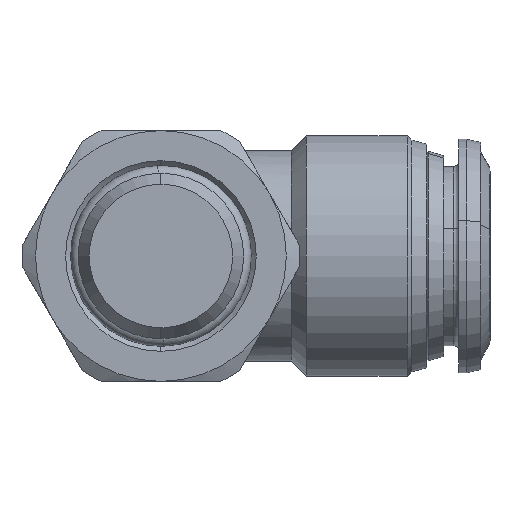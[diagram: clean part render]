
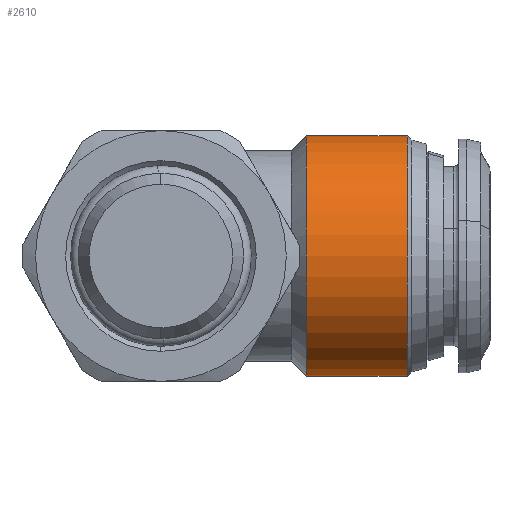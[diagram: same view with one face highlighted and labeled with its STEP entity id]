
A CAD part, front view. The second image highlights one B-rep face of the part: STEP entity #2610.
In plain terms, the highlighted cylindrical face has radius 12 mm (diameter 24 mm), a partial arc.
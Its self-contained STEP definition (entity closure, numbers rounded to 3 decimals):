
#188 = VECTOR ( 'NONE', #2778, 1000. ) ;
#210 = CIRCLE ( 'NONE', #5140, 12. ) ;
#454 = CARTESIAN_POINT ( 'NONE',  ( 14.5, 0., -12. ) ) ;
#722 = CARTESIAN_POINT ( 'NONE',  ( 14.5, 0., 12. ) ) ;
#871 = ORIENTED_EDGE ( 'NONE', *, *, #1252, .F. ) ;
#927 = DIRECTION ( 'NONE',  ( 1., 0., 0. ) ) ;
#982 = CARTESIAN_POINT ( 'NONE',  ( 14.5, 0., 0. ) ) ;
#1249 = CARTESIAN_POINT ( 'NONE',  ( 24.552, 0., 12. ) ) ;
#1252 = EDGE_CURVE ( 'NONE', #3704, #5888, #2170, .T. ) ;
#1449 = CARTESIAN_POINT ( 'NONE',  ( 0., 0., 0. ) ) ;
#1762 = VECTOR ( 'NONE', #5117, 1000. ) ;
#2002 = LINE ( 'NONE', #3882, #1762 ) ;
#2104 = DIRECTION ( 'NONE',  ( 0., 0., 1. ) ) ;
#2170 = CIRCLE ( 'NONE', #4124, 12. ) ;
#2217 = VERTEX_POINT ( 'NONE', #454 ) ;
#2610 = ADVANCED_FACE ( 'NONE', ( #7007 ), #5827, .T. ) ;
#2731 = DIRECTION ( 'NONE',  ( 0., 0., 1. ) ) ;
#2778 = DIRECTION ( 'NONE',  ( -1., 0., 0. ) ) ;
#2906 = EDGE_LOOP ( 'NONE', ( #7565, #871, #7364, #3530 ) ) ;
#2951 = EDGE_CURVE ( 'NONE', #3704, #4639, #2002, .T. ) ;
#3530 = ORIENTED_EDGE ( 'NONE', *, *, #7507, .F. ) ;
#3704 = VERTEX_POINT ( 'NONE', #1249 ) ;
#3882 = CARTESIAN_POINT ( 'NONE',  ( 0., 0., 12. ) ) ;
#4124 = AXIS2_PLACEMENT_3D ( 'NONE', #7762, #927, #2731 ) ;
#4639 = VERTEX_POINT ( 'NONE', #722 ) ;
#4798 = DIRECTION ( 'NONE',  ( 0., 0., 1. ) ) ;
#5117 = DIRECTION ( 'NONE',  ( -1., 0., 0. ) ) ;
#5140 = AXIS2_PLACEMENT_3D ( 'NONE', #982, #7897, #4798 ) ;
#5198 = LINE ( 'NONE', #5238, #188 ) ;
#5238 = CARTESIAN_POINT ( 'NONE',  ( 0., 0., -12. ) ) ;
#5610 = EDGE_CURVE ( 'NONE', #5888, #2217, #5198, .T. ) ;
#5827 = CYLINDRICAL_SURFACE ( 'NONE', #5884, 12. ) ;
#5884 = AXIS2_PLACEMENT_3D ( 'NONE', #1449, #6319, #2104 ) ;
#5888 = VERTEX_POINT ( 'NONE', #7777 ) ;
#6319 = DIRECTION ( 'NONE',  ( -1., 0., 0. ) ) ;
#7007 = FACE_OUTER_BOUND ( 'NONE', #2906, .T. ) ;
#7364 = ORIENTED_EDGE ( 'NONE', *, *, #2951, .T. ) ;
#7507 = EDGE_CURVE ( 'NONE', #2217, #4639, #210, .T. ) ;
#7565 = ORIENTED_EDGE ( 'NONE', *, *, #5610, .F. ) ;
#7762 = CARTESIAN_POINT ( 'NONE',  ( 24.552, 0., 0. ) ) ;
#7777 = CARTESIAN_POINT ( 'NONE',  ( 24.552, 0., -12. ) ) ;
#7897 = DIRECTION ( 'NONE',  ( -1., 0., 0. ) ) ;
